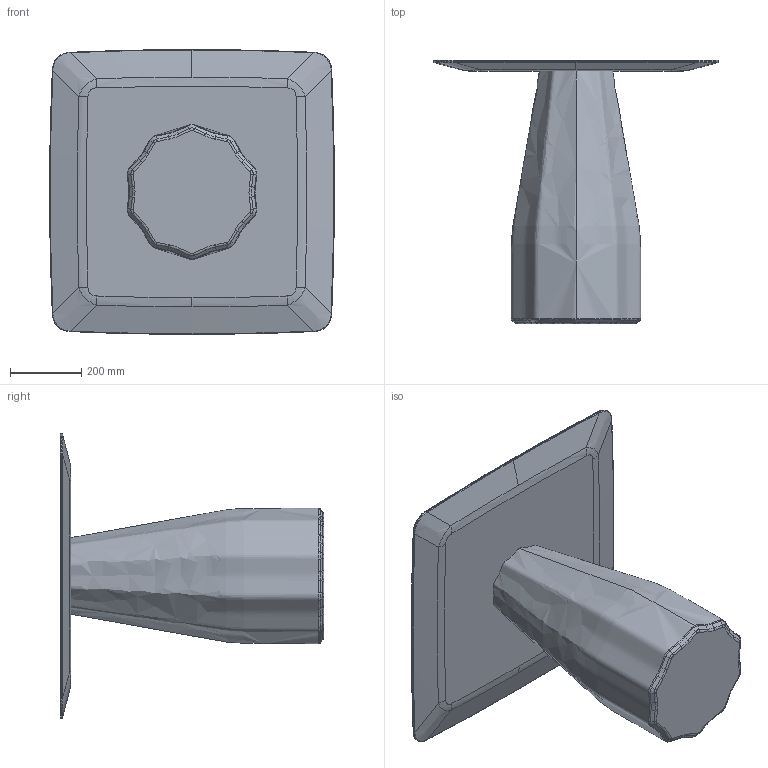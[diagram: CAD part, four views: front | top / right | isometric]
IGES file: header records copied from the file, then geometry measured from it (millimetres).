
Start section: SolidWorks IGES file using analytic representation for surfaces
Global section: file name: Z:\01-VICCARBE\VICCARBE TECNICO 2018\6.-Studio VCCB\Otros\Burin\Modelado\WEB\Nueva carpeta\BurinH74C80.IGS; native system: SolidWorks 2013; preprocessor: SolidWorks 2013; author: Usuario; date: 190219.125713; units: millimetre
Bounding box: 799.26 x 740 x 799.63 mm (x, y, z)
Volume: 72090911.9 mm3; surface area: 2131771.2 mm2
Topology: 2 solids, 2 shells, 179 faces, 451 edges, 276 vertices
Faces by surface type: bspline 142, revolution 33, plane 4
